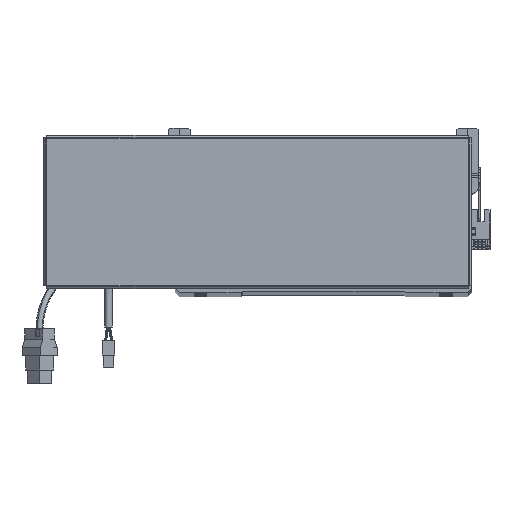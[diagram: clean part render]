
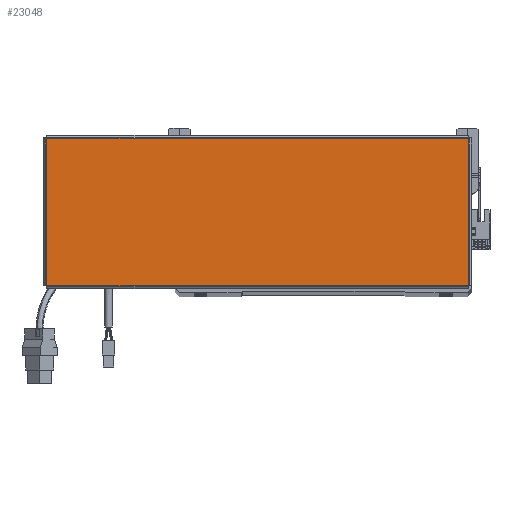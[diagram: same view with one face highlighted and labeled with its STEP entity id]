
A CAD part, top view. The second image highlights one B-rep face of the part: STEP entity #23048.
In plain terms, the highlighted planar face has unit normal (0, 0, 1).
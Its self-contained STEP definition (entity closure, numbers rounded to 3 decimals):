
#912 = PLANE ( 'NONE',  #42275 ) ;
#914 = DIRECTION ( 'NONE',  ( 0., -1., 0. ) ) ;
#1627 = CARTESIAN_POINT ( 'NONE',  ( 0., 0., 0. ) ) ;
#3122 = CARTESIAN_POINT ( 'NONE',  ( -156.513, 54.763, 0. ) ) ;
#6164 = EDGE_LOOP ( 'NONE', ( #16667, #48842, #8326, #43357 ) ) ;
#8326 = ORIENTED_EDGE ( 'NONE', *, *, #18158, .T. ) ;
#10253 = CARTESIAN_POINT ( 'NONE',  ( 156.513, -54.793, 0. ) ) ;
#12067 = VECTOR ( 'NONE', #66501, 1000. ) ;
#12651 = CARTESIAN_POINT ( 'NONE',  ( -156.513, 54.793, 0. ) ) ;
#15457 = CARTESIAN_POINT ( 'NONE',  ( 156.543, 54.763, 0. ) ) ;
#16667 = ORIENTED_EDGE ( 'NONE', *, *, #72876, .T. ) ;
#18129 = DIRECTION ( 'NONE',  ( 0., 0., 1. ) ) ;
#18158 = EDGE_CURVE ( 'NONE', #71496, #34752, #57849, .T. ) ;
#20155 = EDGE_CURVE ( 'NONE', #70264, #71496, #38215, .T. ) ;
#21201 = CARTESIAN_POINT ( 'NONE',  ( 156.513, -54.763, 0. ) ) ;
#23048 = ADVANCED_FACE ( 'NONE', ( #44014 ), #912, .T. ) ;
#24620 = LINE ( 'NONE', #55269, #12067 ) ;
#26978 = DIRECTION ( 'NONE',  ( -1., 0., 0. ) ) ;
#33588 = CARTESIAN_POINT ( 'NONE',  ( 156.513, 54.763, 0. ) ) ;
#34752 = VERTEX_POINT ( 'NONE', #3122 ) ;
#38215 = LINE ( 'NONE', #10253, #46198 ) ;
#41579 = DIRECTION ( 'NONE',  ( 1., 0., 0. ) ) ;
#42275 = AXIS2_PLACEMENT_3D ( 'NONE', #1627, #18129, #41579 ) ;
#43357 = ORIENTED_EDGE ( 'NONE', *, *, #57946, .T. ) ;
#44014 = FACE_OUTER_BOUND ( 'NONE', #6164, .T. ) ;
#46198 = VECTOR ( 'NONE', #50398, 1000. ) ;
#47782 = CARTESIAN_POINT ( 'NONE',  ( -156.513, -54.763, 0. ) ) ;
#48302 = LINE ( 'NONE', #12651, #51839 ) ;
#48842 = ORIENTED_EDGE ( 'NONE', *, *, #20155, .T. ) ;
#50398 = DIRECTION ( 'NONE',  ( 0., 1., 0. ) ) ;
#51839 = VECTOR ( 'NONE', #914, 1000. ) ;
#55269 = CARTESIAN_POINT ( 'NONE',  ( -156.543, -54.763, 0. ) ) ;
#57849 = LINE ( 'NONE', #15457, #58695 ) ;
#57946 = EDGE_CURVE ( 'NONE', #34752, #67914, #48302, .T. ) ;
#58695 = VECTOR ( 'NONE', #26978, 1000. ) ;
#66501 = DIRECTION ( 'NONE',  ( 1., 0., 0. ) ) ;
#67914 = VERTEX_POINT ( 'NONE', #47782 ) ;
#70264 = VERTEX_POINT ( 'NONE', #21201 ) ;
#71496 = VERTEX_POINT ( 'NONE', #33588 ) ;
#72876 = EDGE_CURVE ( 'NONE', #67914, #70264, #24620, .T. ) ;
